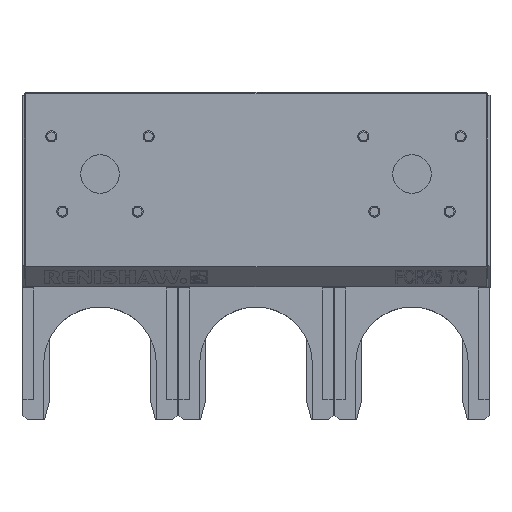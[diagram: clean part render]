
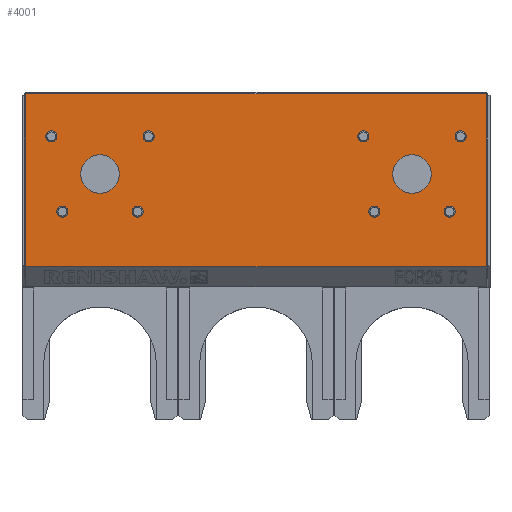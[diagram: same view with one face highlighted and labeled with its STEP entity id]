
A CAD part, top view. The second image highlights one B-rep face of the part: STEP entity #4001.
In plain terms, the highlighted planar face has unit normal (0, 0, 1).
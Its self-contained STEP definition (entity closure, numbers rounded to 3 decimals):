
#2368=FACE_BOUND('',#4880,.T.);
#2369=FACE_BOUND('',#4881,.T.);
#2370=FACE_BOUND('',#4882,.T.);
#2371=FACE_BOUND('',#4883,.T.);
#2372=FACE_BOUND('',#4884,.T.);
#2373=FACE_BOUND('',#4885,.T.);
#2374=FACE_BOUND('',#4886,.T.);
#2375=FACE_BOUND('',#4887,.T.);
#2376=FACE_BOUND('',#4888,.T.);
#2377=FACE_BOUND('',#4889,.T.);
#2378=FACE_BOUND('',#4890,.T.);
#3060=LINE('',#12819,#3696);
#3062=LINE('',#12823,#3698);
#3064=LINE('',#12827,#3700);
#3065=LINE('',#12829,#3701);
#3696=VECTOR('',#10251,1.);
#3698=VECTOR('',#10255,1.);
#3700=VECTOR('',#10259,1.);
#3701=VECTOR('',#10262,1.);
#4001=ADVANCED_FACE('',(#2368,#2369,#2370,#2371,#2372,#2373,#2374,#2375,
#2376,#2377,#2378),#4239,.T.);
#4239=PLANE('',#8732);
#4880=EDGE_LOOP('',(#6601));
#4881=EDGE_LOOP('',(#6602));
#4882=EDGE_LOOP('',(#6603));
#4883=EDGE_LOOP('',(#6604));
#4884=EDGE_LOOP('',(#6605));
#4885=EDGE_LOOP('',(#6606));
#4886=EDGE_LOOP('',(#6607));
#4887=EDGE_LOOP('',(#6608,#6609,#6610,#6611));
#4888=EDGE_LOOP('',(#6612));
#4889=EDGE_LOOP('',(#6613));
#4890=EDGE_LOOP('',(#6614));
#6601=ORIENTED_EDGE('',*,*,#8122,.F.);
#6602=ORIENTED_EDGE('',*,*,#8123,.F.);
#6603=ORIENTED_EDGE('',*,*,#8124,.F.);
#6604=ORIENTED_EDGE('',*,*,#8125,.F.);
#6605=ORIENTED_EDGE('',*,*,#8126,.F.);
#6606=ORIENTED_EDGE('',*,*,#8127,.F.);
#6607=ORIENTED_EDGE('',*,*,#8128,.F.);
#6608=ORIENTED_EDGE('',*,*,#8129,.T.);
#6609=ORIENTED_EDGE('',*,*,#8131,.T.);
#6610=ORIENTED_EDGE('',*,*,#8133,.T.);
#6611=ORIENTED_EDGE('',*,*,#8134,.T.);
#6612=ORIENTED_EDGE('',*,*,#8135,.F.);
#6613=ORIENTED_EDGE('',*,*,#8136,.F.);
#6614=ORIENTED_EDGE('',*,*,#8137,.T.);
#7258=VERTEX_POINT('',#12774);
#7262=VERTEX_POINT('',#12792);
#7264=VERTEX_POINT('',#12799);
#7265=VERTEX_POINT('',#12802);
#7266=VERTEX_POINT('',#12805);
#7267=VERTEX_POINT('',#12808);
#7268=VERTEX_POINT('',#12811);
#7269=VERTEX_POINT('',#12814);
#7270=VERTEX_POINT('',#12817);
#7271=VERTEX_POINT('',#12822);
#7272=VERTEX_POINT('',#12826);
#7273=VERTEX_POINT('',#12832);
#7274=VERTEX_POINT('',#12835);
#7275=VERTEX_POINT('',#12838);
#8122=EDGE_CURVE('',#7264,#7264,#8268,.T.);
#8123=EDGE_CURVE('',#7265,#7265,#8269,.T.);
#8124=EDGE_CURVE('',#7266,#7266,#8270,.T.);
#8125=EDGE_CURVE('',#7267,#7267,#8271,.T.);
#8126=EDGE_CURVE('',#7268,#7268,#8272,.T.);
#8127=EDGE_CURVE('',#7269,#7269,#8273,.T.);
#8128=EDGE_CURVE('',#7270,#7270,#8274,.T.);
#8129=EDGE_CURVE('',#7262,#7258,#3060,.T.);
#8131=EDGE_CURVE('',#7258,#7271,#3062,.T.);
#8133=EDGE_CURVE('',#7271,#7272,#3064,.T.);
#8134=EDGE_CURVE('',#7272,#7262,#3065,.T.);
#8135=EDGE_CURVE('',#7273,#7273,#8275,.T.);
#8136=EDGE_CURVE('',#7274,#7274,#8276,.T.);
#8137=EDGE_CURVE('',#7275,#7275,#8277,.T.);
#8268=CIRCLE('',#8708,1.25);
#8269=CIRCLE('',#8710,1.25);
#8270=CIRCLE('',#8712,1.25);
#8271=CIRCLE('',#8714,1.25);
#8272=CIRCLE('',#8716,1.25);
#8273=CIRCLE('',#8718,1.25);
#8274=CIRCLE('',#8720,1.25);
#8275=CIRCLE('',#8726,4.35);
#8276=CIRCLE('',#8728,4.35);
#8277=CIRCLE('',#8730,1.25);
#8708=AXIS2_PLACEMENT_3D('',#12798,#10223,#10224);
#8710=AXIS2_PLACEMENT_3D('',#12801,#10227,#10228);
#8712=AXIS2_PLACEMENT_3D('',#12804,#10231,#10232);
#8714=AXIS2_PLACEMENT_3D('',#12807,#10235,#10236);
#8716=AXIS2_PLACEMENT_3D('',#12810,#10239,#10240);
#8718=AXIS2_PLACEMENT_3D('',#12813,#10243,#10244);
#8720=AXIS2_PLACEMENT_3D('',#12816,#10247,#10248);
#8726=AXIS2_PLACEMENT_3D('',#12831,#10265,#10266);
#8728=AXIS2_PLACEMENT_3D('',#12834,#10269,#10270);
#8730=AXIS2_PLACEMENT_3D('',#12837,#10273,#10274);
#8732=AXIS2_PLACEMENT_3D('',#12840,#10277,#10278);
#10223=DIRECTION('',(0.,0.,1.));
#10224=DIRECTION('',(0.,-1.,0.));
#10227=DIRECTION('',(0.,0.,1.));
#10228=DIRECTION('',(0.,-1.,0.));
#10231=DIRECTION('',(0.,0.,1.));
#10232=DIRECTION('',(0.,-1.,0.));
#10235=DIRECTION('',(0.,0.,1.));
#10236=DIRECTION('',(0.,-1.,0.));
#10239=DIRECTION('',(0.,0.,1.));
#10240=DIRECTION('',(0.,-1.,0.));
#10243=DIRECTION('',(0.,0.,1.));
#10244=DIRECTION('',(0.,-1.,0.));
#10247=DIRECTION('',(0.,0.,1.));
#10248=DIRECTION('',(0.,-1.,0.));
#10251=DIRECTION('',(1.,0.,0.));
#10255=DIRECTION('',(0.,1.,0.));
#10259=DIRECTION('',(-1.,0.,0.));
#10262=DIRECTION('',(0.,-1.,0.));
#10265=DIRECTION('',(0.,0.,1.));
#10266=DIRECTION('',(0.,-1.,0.));
#10269=DIRECTION('',(0.,0.,1.));
#10270=DIRECTION('',(0.,-1.,0.));
#10273=DIRECTION('',(0.,0.,-1.));
#10274=DIRECTION('',(0.,-1.,0.));
#10277=DIRECTION('',(0.,0.,1.));
#10278=DIRECTION('',(0.,-1.,0.));
#12774=CARTESIAN_POINT('',(87.225,21.75,18.21));
#12792=CARTESIAN_POINT('',(-16.725,21.75,18.21));
#12798=CARTESIAN_POINT('',(-8.5,34.25,18.21));
#12799=CARTESIAN_POINT('',(-8.5,33.,18.21));
#12801=CARTESIAN_POINT('',(-11.,51.25,18.21));
#12802=CARTESIAN_POINT('',(-11.,50.,18.21));
#12804=CARTESIAN_POINT('',(11.,51.25,18.21));
#12805=CARTESIAN_POINT('',(11.,50.,18.21));
#12807=CARTESIAN_POINT('',(8.5,34.25,18.21));
#12808=CARTESIAN_POINT('',(8.5,33.,18.21));
#12810=CARTESIAN_POINT('',(62.,34.25,18.21));
#12811=CARTESIAN_POINT('',(62.,33.,18.21));
#12813=CARTESIAN_POINT('',(79.,34.25,18.21));
#12814=CARTESIAN_POINT('',(79.,33.,18.21));
#12816=CARTESIAN_POINT('',(59.5,51.25,18.21));
#12817=CARTESIAN_POINT('',(59.5,50.,18.21));
#12819=CARTESIAN_POINT('',(35.25,21.75,18.21));
#12822=CARTESIAN_POINT('',(87.225,60.85,18.21));
#12823=CARTESIAN_POINT('',(87.225,60.85,18.21));
#12826=CARTESIAN_POINT('',(-16.725,60.85,18.21));
#12827=CARTESIAN_POINT('',(35.25,60.85,18.21));
#12829=CARTESIAN_POINT('',(-16.725,21.75,18.21));
#12831=CARTESIAN_POINT('',(0.,42.75,18.21));
#12832=CARTESIAN_POINT('',(0.,38.4,18.21));
#12834=CARTESIAN_POINT('',(70.5,42.75,18.21));
#12835=CARTESIAN_POINT('',(70.5,38.4,18.21));
#12837=CARTESIAN_POINT('',(81.5,51.25,18.21));
#12838=CARTESIAN_POINT('',(81.5,50.,18.21));
#12840=CARTESIAN_POINT('',(35.25,39.25,18.21));
